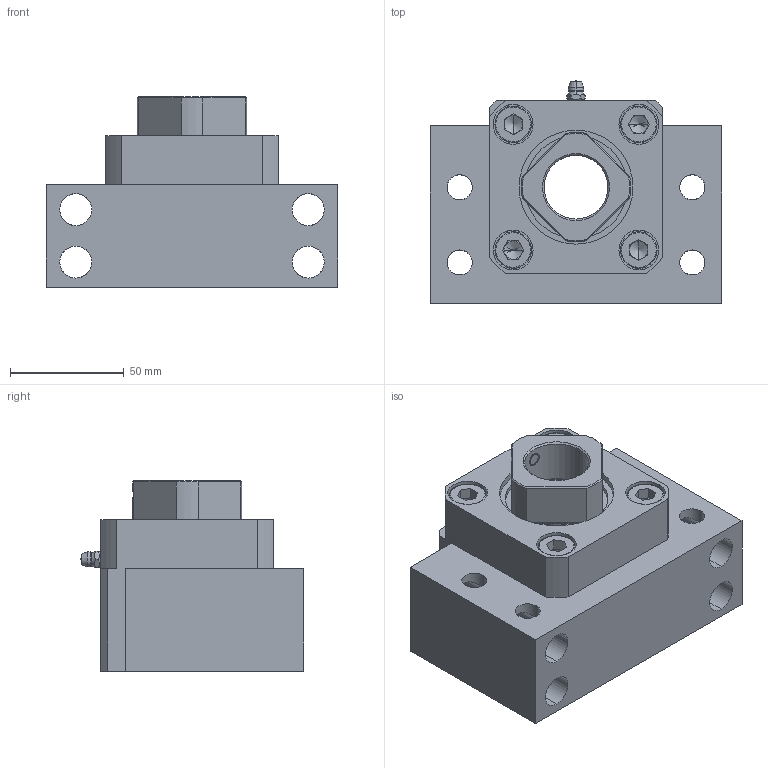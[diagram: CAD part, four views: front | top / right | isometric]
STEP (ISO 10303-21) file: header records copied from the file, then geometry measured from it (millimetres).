
FILE_DESCRIPTION (( 'STEP AP203' ), '1' );
FILE_NAME ('BK30G.STEP', '2018-09-15T02:10:15', ( '' ), ( '' ), 'SwSTEP 2.0', 'SolidWorks 2015', '' );
FILE_SCHEMA (( 'CONFIG_CONTROL_DESIGN' ));
Length unit declared in the file: millimetre
Products named in the file (1): BK30G
Bounding box: 128 x 97.9 x 83.5 mm (x, y, z)
Volume: 484258.2 mm3; surface area: 101566.6 mm2
Topology: 1 solids, 16 shells, 413 faces, 1031 edges, 643 vertices
Faces by surface type: cylinder 153, plane 140, cone 65, bspline 48, torus 6, sphere 1
Entity records: 15663 total; most frequent: CARTESIAN_POINT 5844, DIRECTION 2068, ORIENTED_EDGE 2020, EDGE_CURVE 1010, AXIS2_PLACEMENT_3D 829, VERTEX_POINT 641, EDGE_LOOP 481, CIRCLE 463
